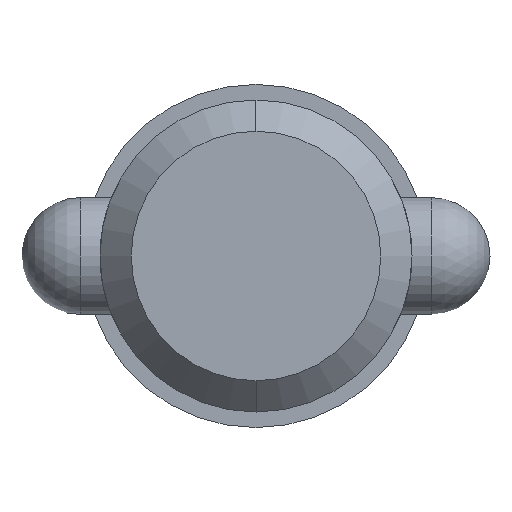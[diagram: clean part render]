
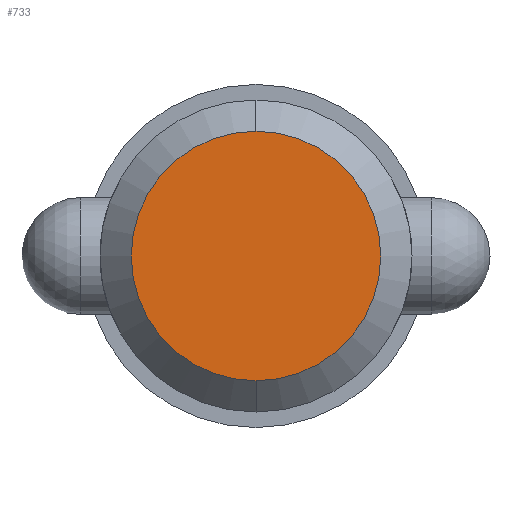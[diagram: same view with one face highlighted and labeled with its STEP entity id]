
A CAD part, left-side view. The second image highlights one B-rep face of the part: STEP entity #733.
In plain terms, the highlighted planar face has unit normal (-1, 0, 0).
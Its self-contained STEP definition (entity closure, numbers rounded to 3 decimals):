
#50 = CARTESIAN_POINT ( 'NONE',  ( 0., 0., -10.16 ) ) ;
#58 = CIRCLE ( 'NONE', #845, 10.16 ) ;
#60 = CIRCLE ( 'NONE', #916, 10.16 ) ;
#91 = DIRECTION ( 'NONE',  ( -1., 0., 0. ) ) ;
#144 = EDGE_CURVE ( 'NONE', #397, #802, #58, .T. ) ;
#183 = DIRECTION ( 'NONE',  ( 1., 0., 0. ) ) ;
#271 = CARTESIAN_POINT ( 'NONE',  ( 0., 0., 0. ) ) ;
#342 = CARTESIAN_POINT ( 'NONE',  ( 0., 0., 10.16 ) ) ;
#351 = ORIENTED_EDGE ( 'NONE', *, *, #667, .F. ) ;
#397 = VERTEX_POINT ( 'NONE', #50 ) ;
#430 = AXIS2_PLACEMENT_3D ( 'NONE', #1081, #91, #616 ) ;
#590 = ORIENTED_EDGE ( 'NONE', *, *, #144, .F. ) ;
#616 = DIRECTION ( 'NONE',  ( 0., 0., 1. ) ) ;
#667 = EDGE_CURVE ( 'NONE', #802, #397, #60, .T. ) ;
#733 = ADVANCED_FACE ( 'NONE', ( #1010 ), #763, .T. ) ;
#742 = DIRECTION ( 'NONE',  ( 0., 0., -1. ) ) ;
#763 = PLANE ( 'NONE',  #430 ) ;
#776 = DIRECTION ( 'NONE',  ( 1., 0., 0. ) ) ;
#802 = VERTEX_POINT ( 'NONE', #342 ) ;
#845 = AXIS2_PLACEMENT_3D ( 'NONE', #271, #776, #872 ) ;
#872 = DIRECTION ( 'NONE',  ( 0., 0., -1. ) ) ;
#916 = AXIS2_PLACEMENT_3D ( 'NONE', #1011, #183, #742 ) ;
#969 = EDGE_LOOP ( 'NONE', ( #590, #351 ) ) ;
#1010 = FACE_OUTER_BOUND ( 'NONE', #969, .T. ) ;
#1011 = CARTESIAN_POINT ( 'NONE',  ( 0., 0., 0. ) ) ;
#1081 = CARTESIAN_POINT ( 'NONE',  ( 0., 0., 0. ) ) ;
